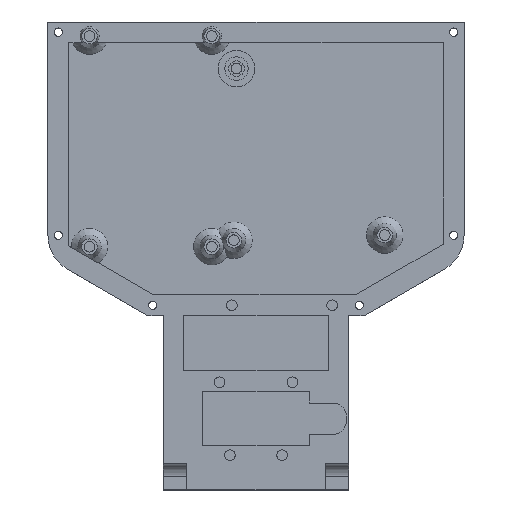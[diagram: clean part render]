
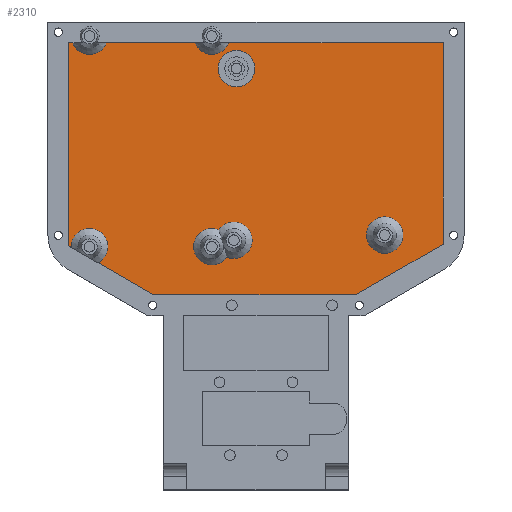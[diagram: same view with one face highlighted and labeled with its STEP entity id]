
A CAD part, top view. The second image highlights one B-rep face of the part: STEP entity #2310.
In plain terms, the highlighted planar face has unit normal (0, 0, 1).
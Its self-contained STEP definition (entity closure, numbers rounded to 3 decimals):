
#41=FACE_BOUND('',#467,.T.);
#42=FACE_BOUND('',#468,.T.);
#43=FACE_BOUND('',#469,.T.);
#180=CIRCLE('',#2517,7.);
#183=CIRCLE('',#2522,7.);
#184=CIRCLE('',#2523,7.);
#185=CIRCLE('',#2524,7.);
#186=CIRCLE('',#2525,7.);
#187=CIRCLE('',#2526,7.);
#188=CIRCLE('',#2527,7.);
#296=FACE_OUTER_BOUND('',#466,.T.);
#466=EDGE_LOOP('',(#1777,#1778,#1779,#1780,#1781,#1782,#1783,#1784,#1785,
#1786,#1787,#1788));
#467=EDGE_LOOP('',(#1789));
#468=EDGE_LOOP('',(#1790,#1791));
#469=EDGE_LOOP('',(#1792));
#707=LINE('',#3746,#896);
#710=LINE('',#3765,#899);
#711=LINE('',#3767,#900);
#712=LINE('',#3769,#901);
#713=LINE('',#3773,#902);
#714=LINE('',#3775,#903);
#715=LINE('',#3777,#904);
#716=LINE('',#3779,#905);
#717=LINE('',#3781,#906);
#896=VECTOR('',#2972,10.);
#899=VECTOR('',#2979,10.);
#900=VECTOR('',#2980,10.);
#901=VECTOR('',#2981,10.);
#902=VECTOR('',#2984,10.);
#903=VECTOR('',#2985,10.);
#904=VECTOR('',#2986,10.);
#905=VECTOR('',#2987,10.);
#906=VECTOR('',#2988,10.);
#1100=VERTEX_POINT('',#3732);
#1102=VERTEX_POINT('',#3737);
#1104=VERTEX_POINT('',#3745);
#1109=VERTEX_POINT('',#3764);
#1110=VERTEX_POINT('',#3766);
#1111=VERTEX_POINT('',#3768);
#1112=VERTEX_POINT('',#3770);
#1113=VERTEX_POINT('',#3772);
#1114=VERTEX_POINT('',#3774);
#1115=VERTEX_POINT('',#3776);
#1116=VERTEX_POINT('',#3778);
#1117=VERTEX_POINT('',#3780);
#1118=VERTEX_POINT('',#3783);
#1119=VERTEX_POINT('',#3785);
#1120=VERTEX_POINT('',#3786);
#1121=VERTEX_POINT('',#3789);
#1351=EDGE_CURVE('',#1100,#1102,#180,.T.);
#1354=EDGE_CURVE('',#1102,#1104,#707,.T.);
#1361=EDGE_CURVE('',#1109,#1100,#710,.T.);
#1362=EDGE_CURVE('',#1110,#1109,#711,.T.);
#1363=EDGE_CURVE('',#1110,#1111,#712,.T.);
#1364=EDGE_CURVE('',#1112,#1111,#183,.T.);
#1365=EDGE_CURVE('',#1112,#1113,#713,.T.);
#1366=EDGE_CURVE('',#1114,#1113,#714,.T.);
#1367=EDGE_CURVE('',#1115,#1114,#715,.T.);
#1368=EDGE_CURVE('',#1116,#1115,#716,.F.);
#1369=EDGE_CURVE('',#1117,#1116,#717,.T.);
#1370=EDGE_CURVE('',#1104,#1117,#184,.T.);
#1371=EDGE_CURVE('',#1118,#1118,#185,.T.);
#1372=EDGE_CURVE('',#1119,#1120,#186,.T.);
#1373=EDGE_CURVE('',#1120,#1119,#187,.T.);
#1374=EDGE_CURVE('',#1121,#1121,#188,.T.);
#1777=ORIENTED_EDGE('',*,*,#1351,.F.);
#1778=ORIENTED_EDGE('',*,*,#1361,.F.);
#1779=ORIENTED_EDGE('',*,*,#1362,.F.);
#1780=ORIENTED_EDGE('',*,*,#1363,.T.);
#1781=ORIENTED_EDGE('',*,*,#1364,.F.);
#1782=ORIENTED_EDGE('',*,*,#1365,.T.);
#1783=ORIENTED_EDGE('',*,*,#1366,.F.);
#1784=ORIENTED_EDGE('',*,*,#1367,.F.);
#1785=ORIENTED_EDGE('',*,*,#1368,.F.);
#1786=ORIENTED_EDGE('',*,*,#1369,.F.);
#1787=ORIENTED_EDGE('',*,*,#1370,.F.);
#1788=ORIENTED_EDGE('',*,*,#1354,.F.);
#1789=ORIENTED_EDGE('',*,*,#1371,.F.);
#1790=ORIENTED_EDGE('',*,*,#1372,.F.);
#1791=ORIENTED_EDGE('',*,*,#1373,.F.);
#1792=ORIENTED_EDGE('',*,*,#1374,.F.);
#2218=PLANE('',#2521);
#2310=ADVANCED_FACE('',(#296,#41,#42,#43),#2218,.F.);
#2517=AXIS2_PLACEMENT_3D('',#3738,#2966,#2967);
#2521=AXIS2_PLACEMENT_3D('',#3763,#2977,#2978);
#2522=AXIS2_PLACEMENT_3D('',#3771,#2982,#2983);
#2523=AXIS2_PLACEMENT_3D('',#3782,#2989,#2990);
#2524=AXIS2_PLACEMENT_3D('',#3784,#2991,#2992);
#2525=AXIS2_PLACEMENT_3D('',#3787,#2993,#2994);
#2526=AXIS2_PLACEMENT_3D('',#3788,#2995,#2996);
#2527=AXIS2_PLACEMENT_3D('',#3790,#2997,#2998);
#2966=DIRECTION('center_axis',(0.,0.,1.));
#2967=DIRECTION('ref_axis',(0.,-1.,0.));
#2972=DIRECTION('',(1.,0.,0.));
#2977=DIRECTION('center_axis',(0.,0.,-1.));
#2978=DIRECTION('ref_axis',(-1.,0.,0.));
#2979=DIRECTION('',(1.,0.,0.));
#2980=DIRECTION('',(0.,1.,0.));
#2981=DIRECTION('',(0.866,-0.5,0.));
#2982=DIRECTION('center_axis',(0.,0.,1.));
#2983=DIRECTION('ref_axis',(0.,1.,0.));
#2984=DIRECTION('',(0.866,-0.5,0.));
#2985=DIRECTION('',(-1.,0.,0.));
#2986=DIRECTION('',(-0.866,-0.5,0.));
#2987=DIRECTION('',(0.,1.,0.));
#2988=DIRECTION('',(1.,0.,0.));
#2989=DIRECTION('center_axis',(0.,0.,1.));
#2990=DIRECTION('ref_axis',(0.,-1.,0.));
#2991=DIRECTION('center_axis',(0.,0.,1.));
#2992=DIRECTION('ref_axis',(-1.,0.,0.));
#2993=DIRECTION('center_axis',(0.,0.,1.));
#2994=DIRECTION('ref_axis',(0.,-1.,0.));
#2995=DIRECTION('center_axis',(0.,0.,1.));
#2996=DIRECTION('ref_axis',(1.,0.,0.));
#2997=DIRECTION('center_axis',(0.,0.,1.));
#2998=DIRECTION('ref_axis',(-0.707,0.707,0.));
#3732=CARTESIAN_POINT('',(-70.812,-158.,-15.916));
#3737=CARTESIAN_POINT('',(-57.735,-158.,-15.916));
#3738=CARTESIAN_POINT('Origin',(-64.274,-155.5,-15.916));
#3745=CARTESIAN_POINT('',(-23.812,-158.,-15.916));
#3746=CARTESIAN_POINT('',(-0.274,-158.,-15.916));
#3763=CARTESIAN_POINT('Origin',(-0.274,-297.5,-15.916));
#3764=CARTESIAN_POINT('',(-72.274,-158.,-15.916));
#3765=CARTESIAN_POINT('',(-0.274,-158.,-15.916));
#3766=CARTESIAN_POINT('',(-72.274,-236.174,-15.916));
#3767=CARTESIAN_POINT('',(-72.274,-217.08,-15.916));
#3768=CARTESIAN_POINT('',(-71.269,-236.754,-15.916));
#3769=CARTESIAN_POINT('',(-38.788,-255.507,-15.916));
#3770=CARTESIAN_POINT('',(-60.996,-242.685,-15.916));
#3771=CARTESIAN_POINT('Origin',(-64.274,-236.5,-15.916));
#3772=CARTESIAN_POINT('',(-39.665,-255.,-15.916));
#3773=CARTESIAN_POINT('',(-38.788,-255.507,-15.916));
#3774=CARTESIAN_POINT('',(37.948,-255.,-15.916));
#3775=CARTESIAN_POINT('',(-0.274,-255.,-15.916));
#3776=CARTESIAN_POINT('',(71.726,-235.498,-15.916));
#3777=CARTESIAN_POINT('',(37.948,-255.,-15.916));
#3778=CARTESIAN_POINT('',(71.726,-158.,-15.916));
#3779=CARTESIAN_POINT('',(71.726,-286.25,-15.916));
#3780=CARTESIAN_POINT('',(-10.735,-158.,-15.916));
#3781=CARTESIAN_POINT('',(-0.274,-158.,-15.916));
#3782=CARTESIAN_POINT('Origin',(-17.274,-155.5,-15.916));
#3783=CARTESIAN_POINT('',(56.226,-232.,-15.916));
#3784=CARTESIAN_POINT('Origin',(49.226,-232.,-15.916));
#3785=CARTESIAN_POINT('',(-14.553,-230.05,-15.916));
#3786=CARTESIAN_POINT('',(-11.494,-240.45,-15.916));
#3787=CARTESIAN_POINT('Origin',(-17.274,-236.5,-15.916));
#3788=CARTESIAN_POINT('Origin',(-8.774,-234.,-15.916));
#3789=CARTESIAN_POINT('',(-2.824,-172.95,-15.916));
#3790=CARTESIAN_POINT('Origin',(-7.774,-168.,-15.916));
